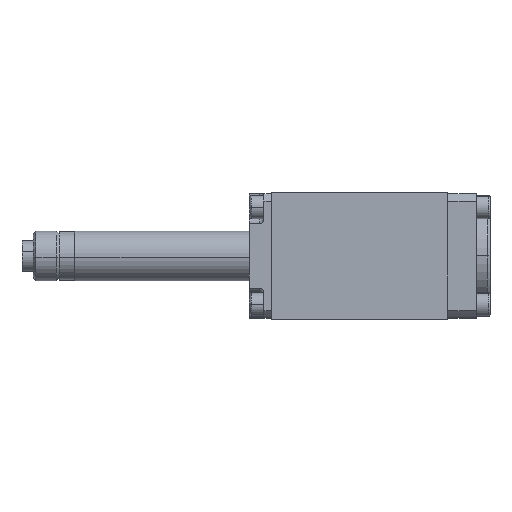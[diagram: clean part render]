
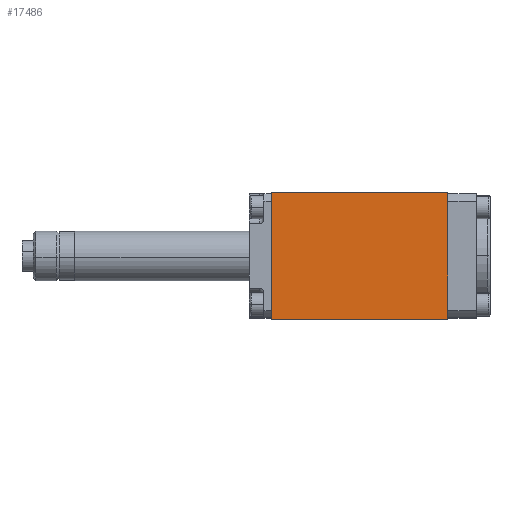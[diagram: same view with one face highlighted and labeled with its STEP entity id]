
A CAD part, top view. The second image highlights one B-rep face of the part: STEP entity #17486.
In plain terms, the highlighted planar face has unit normal (0, 0, 1).
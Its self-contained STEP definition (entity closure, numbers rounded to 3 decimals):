
#425 = CARTESIAN_POINT ( 'NONE',  ( 64., -23., 23. ) ) ;
#2101 = ORIENTED_EDGE ( 'NONE', *, *, #30978, .T. ) ;
#2515 = VECTOR ( 'NONE', #14767, 1000. ) ;
#2569 = ORIENTED_EDGE ( 'NONE', *, *, #22530, .F. ) ;
#4203 = CARTESIAN_POINT ( 'NONE',  ( 0., 23., 23. ) ) ;
#4701 = ORIENTED_EDGE ( 'NONE', *, *, #39302, .T. ) ;
#5580 = DIRECTION ( 'NONE',  ( 0., 0., -1. ) ) ;
#7334 = EDGE_LOOP ( 'NONE', ( #2101, #31757, #2569, #4701 ) ) ;
#7641 = AXIS2_PLACEMENT_3D ( 'NONE', #24280, #5580, #27378 ) ;
#8609 = PLANE ( 'NONE',  #7641 ) ;
#10741 = VERTEX_POINT ( 'NONE', #18769 ) ;
#11011 = VERTEX_POINT ( 'NONE', #14200 ) ;
#12283 = VECTOR ( 'NONE', #16193, 1000. ) ;
#14200 = CARTESIAN_POINT ( 'NONE',  ( 0., -23., 23. ) ) ;
#14612 = VECTOR ( 'NONE', #20831, 1000. ) ;
#14767 = DIRECTION ( 'NONE',  ( -1., 0., 0. ) ) ;
#15004 = EDGE_CURVE ( 'NONE', #30902, #11011, #20595, .T. ) ;
#16193 = DIRECTION ( 'NONE',  ( -1., 0., 0. ) ) ;
#17486 = ADVANCED_FACE ( 'NONE', ( #26720 ), #8609, .F. ) ;
#18769 = CARTESIAN_POINT ( 'NONE',  ( 64., 23., 23. ) ) ;
#20595 = LINE ( 'NONE', #425, #12283 ) ;
#20705 = VERTEX_POINT ( 'NONE', #4203 ) ;
#20831 = DIRECTION ( 'NONE',  ( 0., -1., 0. ) ) ;
#22032 = LINE ( 'NONE', #29751, #30282 ) ;
#22530 = EDGE_CURVE ( 'NONE', #10741, #30902, #40559, .T. ) ;
#23112 = CARTESIAN_POINT ( 'NONE',  ( 64., -23., 23. ) ) ;
#23939 = CARTESIAN_POINT ( 'NONE',  ( 64., -23., 23. ) ) ;
#24280 = CARTESIAN_POINT ( 'NONE',  ( 64., -23., 23. ) ) ;
#26489 = LINE ( 'NONE', #33505, #2515 ) ;
#26720 = FACE_OUTER_BOUND ( 'NONE', #7334, .T. ) ;
#27378 = DIRECTION ( 'NONE',  ( -1., 0., 0. ) ) ;
#29751 = CARTESIAN_POINT ( 'NONE',  ( 0., -23., 23. ) ) ;
#30282 = VECTOR ( 'NONE', #32933, 1000. ) ;
#30902 = VERTEX_POINT ( 'NONE', #23112 ) ;
#30978 = EDGE_CURVE ( 'NONE', #20705, #11011, #22032, .T. ) ;
#31757 = ORIENTED_EDGE ( 'NONE', *, *, #15004, .F. ) ;
#32933 = DIRECTION ( 'NONE',  ( 0., -1., 0. ) ) ;
#33505 = CARTESIAN_POINT ( 'NONE',  ( 64., 23., 23. ) ) ;
#39302 = EDGE_CURVE ( 'NONE', #10741, #20705, #26489, .T. ) ;
#40559 = LINE ( 'NONE', #23939, #14612 ) ;
